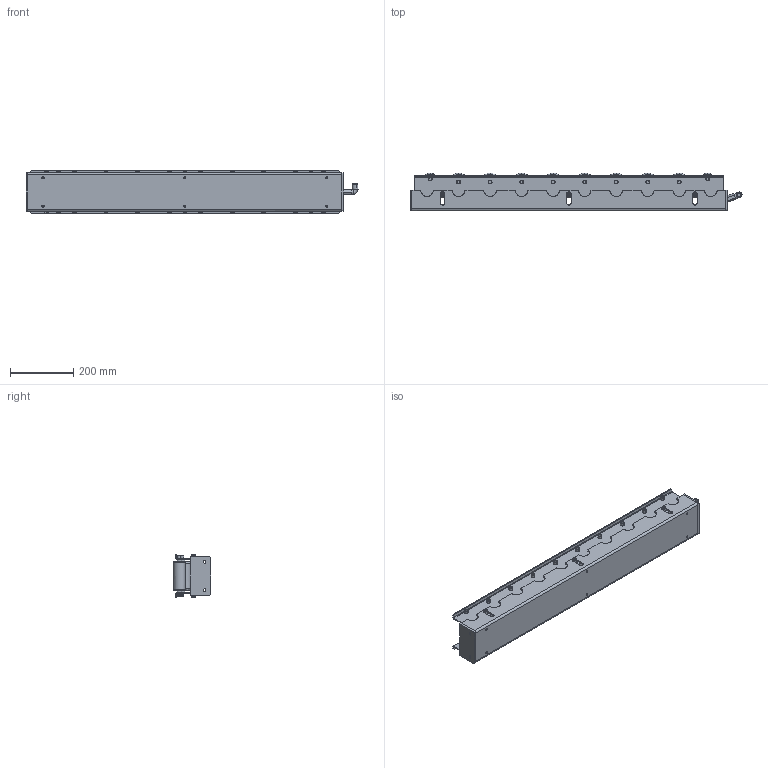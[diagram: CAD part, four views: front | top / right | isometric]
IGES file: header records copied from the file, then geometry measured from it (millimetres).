
Start section: 3D InterOp IGES (Version 21 0 2), Spatial Corp. Copyright (c) 1999-2007.
Global section: file name: ALR-PR-571008M_H.igs; native system: Spatial Corp.; preprocessor: 3D InterOp GENERIC/IGES 3.0; author: Noname; organization: Noname; date: 20130321.140340; units: millimetre
Bounding box: 1053 x 120.05 x 135 mm (x, y, z)
Surface area: 1255934 mm2 (no closed solid volume)
Topology: 0 solids, 0 shells, 764 faces, 4990 edges, 4978 vertices
Faces by surface type: bspline 764
